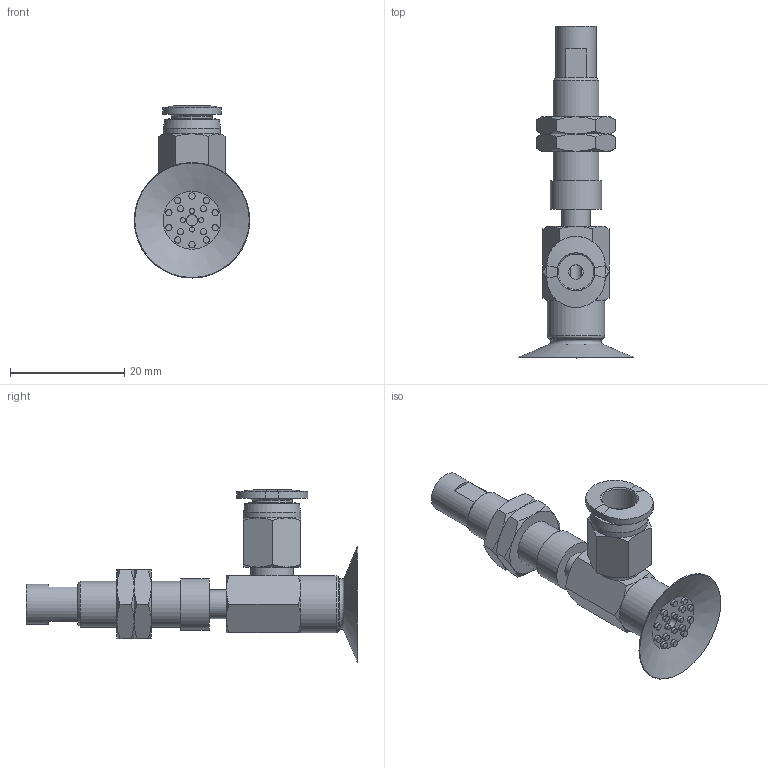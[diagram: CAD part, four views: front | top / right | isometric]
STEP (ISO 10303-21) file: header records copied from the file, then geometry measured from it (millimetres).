
FILE_DESCRIPTION(('STEP AP203'),'1');
FILE_NAME('-O.stp','2025-02-14T07:11:55',(' '),(' '),'Spatial InterOp 3D',' ',' ');
FILE_SCHEMA(('CONFIG_CONTROL_DESIGN'));
Length unit declared in the file: millimetre
Products named in the file (7): BNABPAYS-20A-3-※-O; NAPAYS-20A-3--M; NAPAYS-20A-3--F; Nut-10A-S; CONNECTOR-20A-3-PA; BPAG-20A-※_3D; PC-C_06-M5
Assembly tree (7 placements, depth 2):
  BNABPAYS-20A-3-※-O
    NAPAYS-20A-3--M
    NAPAYS-20A-3--F
    Nut-10A-S  x2
    CONNECTOR-20A-3-PA
    BPAG-20A-※_3D
    PC-C_06-M5
Bounding box: 20.19 x 58 x 30.07 mm (x, y, z)
Volume: 3707.1 mm3; surface area: 5736.5 mm2
Topology: 6 solids, 9 shells, 216 faces, 428 edges, 262 vertices
Faces by surface type: plane 86, cone 67, cylinder 44, torus 12, bspline 4, revolution 3
Full cylindrical faces by diameter (mm): 0.9 x4, 1.1 x14, 2 x2, 4 x4, 4.134 x2, 5 x4, 6 x2, 7 x2, 7.188 x2, 7.4 x1, 8 x1, 8.2 x1, 9 x1, 10 x2
Entity records: 5340 total; most frequent: CARTESIAN_POINT 1420, DIRECTION 761, ORIENTED_EDGE 594, AXIS2_PLACEMENT_3D 350, EDGE_LOOP 308, EDGE_CURVE 299, VERTEX_POINT 223, FACE_OUTER_BOUND 186
